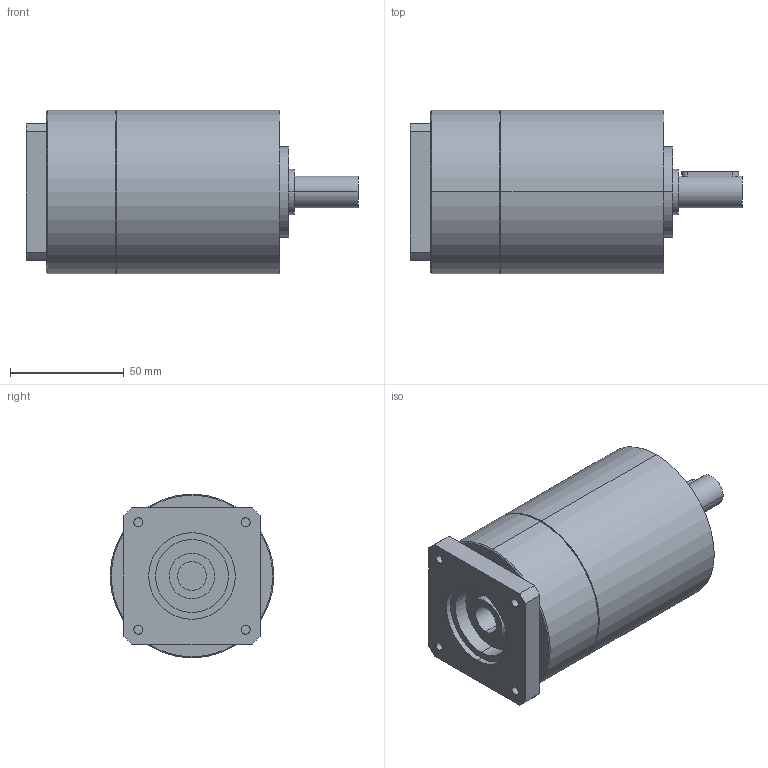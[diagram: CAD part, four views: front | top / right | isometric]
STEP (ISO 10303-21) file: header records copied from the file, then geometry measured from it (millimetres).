
FILE_DESCRIPTION(('CoCreate Modeling STEP Export'),'2;1');
FILE_NAME('GPT75_ig-9-12-16-20-25-28-35-40-50-70-100_14_B14T_12.7_P28.stp','2014-08-27T13:15:48',(''),(''),'CoCreate Modeling STEP processor for AP214 (Solid Model)','CoCreate Modeling 16.00C 25-Feb-2009 (C) Parametric Technology GmbH','');
FILE_SCHEMA(('AUTOMOTIVE_DESIGN { 1 0 10303 214 1 1 1 1 }'));
Length unit declared in the file: millimetre
Products named in the file (2): GPT75_ig-9-12-16-20-25-28-35-40-50-70-100_14_B14T_12.7_P28
Assembly tree (1 placements, depth 2):
  GPT75_ig-9-12-16-20-25-28-35-40-50-70-100_14_B14T_12.7_P28
    GPT75_ig-9-12-16-20-25-28-35-40-50-70-100_14_B14T_12.7_P28
Bounding box: 146 x 72 x 72 mm (x, y, z)
Volume: 447330 mm3; surface area: 39611 mm2
Topology: 1 solids, 1 shells, 80 faces, 182 edges, 121 vertices
Faces by surface type: cylinder 42, plane 34, cone 4
Entity records: 2269 total; most frequent: CARTESIAN_POINT 677, ORIENTED_EDGE 364, DIRECTION 268, EDGE_CURVE 182, VERTEX_POINT 121, AXIS2_PLACEMENT_3D 100, EDGE_LOOP 97, FACE_OUTER_BOUND 80
